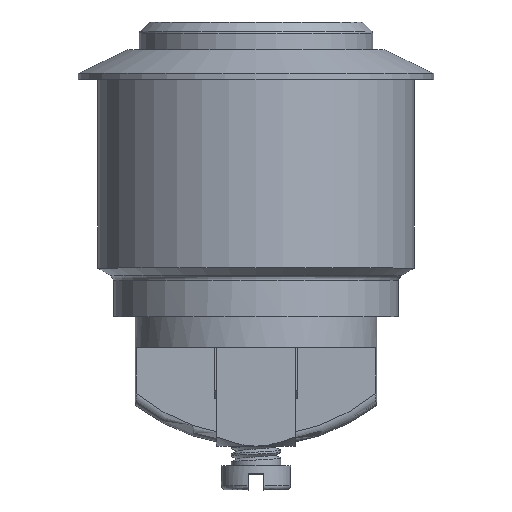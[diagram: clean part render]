
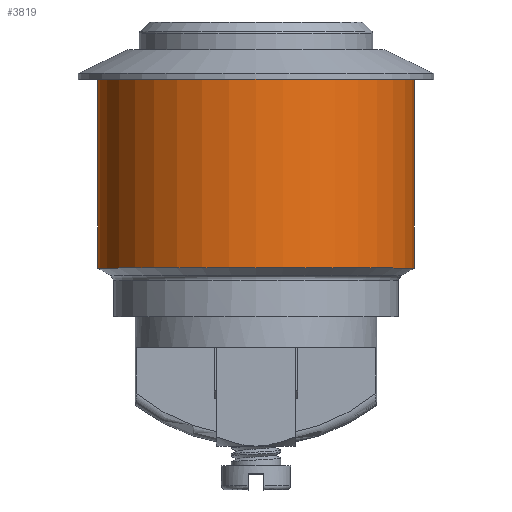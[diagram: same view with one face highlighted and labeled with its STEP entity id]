
A CAD part, top view. The second image highlights one B-rep face of the part: STEP entity #3819.
In plain terms, the highlighted cylindrical face has radius 8 mm (diameter 16 mm), a partial arc.
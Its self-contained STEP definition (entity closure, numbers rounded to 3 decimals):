
#1154=CARTESIAN_POINT('',(0.,4.012,0.));
#1155=DIRECTION('',(0.,1.,0.));
#1156=DIRECTION('',(-1.,0.,0.));
#1157=AXIS2_PLACEMENT_3D('',#1154,#1155,#1156);
#1206=DIRECTION('',(0.,-1.,0.));
#1207=VECTOR('',#1206,9.538);
#1208=CARTESIAN_POINT('',(-8.,13.55,0.));
#1209=LINE('',#1208,#1207);
#1210=DIRECTION('',(0.,-1.,0.));
#1211=VECTOR('',#1210,9.538);
#1212=CARTESIAN_POINT('',(8.,13.55,0.));
#1213=LINE('',#1212,#1211);
#1214=CARTESIAN_POINT('',(0.,13.55,0.));
#1215=DIRECTION('',(0.,1.,0.));
#1216=DIRECTION('',(-1.,0.,0.));
#1217=AXIS2_PLACEMENT_3D('',#1214,#1215,#1216);
#2195=CARTESIAN_POINT('',(-8.,4.012,0.));
#2196=VERTEX_POINT('',#2195);
#2197=CARTESIAN_POINT('',(8.,4.012,0.));
#2198=VERTEX_POINT('',#2197);
#2203=CARTESIAN_POINT('',(8.,13.55,0.));
#2204=VERTEX_POINT('',#2203);
#2205=CARTESIAN_POINT('',(-8.,13.55,0.));
#2206=VERTEX_POINT('',#2205);
#3807=CARTESIAN_POINT('',(0.,15.725,0.));
#3808=DIRECTION('',(0.,-1.,0.));
#3809=DIRECTION('',(-1.,0.,0.));
#3810=AXIS2_PLACEMENT_3D('',#3807,#3808,#3809);
#3811=CYLINDRICAL_SURFACE('',#3810,8.);
#3812=ORIENTED_EDGE('',*,*,#3797,.T.);
#3813=ORIENTED_EDGE('',*,*,#3740,.F.);
#3814=ORIENTED_EDGE('',*,*,#3801,.F.);
#3816=ORIENTED_EDGE('',*,*,#3815,.T.);
#3817=EDGE_LOOP('',(#3812,#3813,#3814,#3816));
#3818=FACE_OUTER_BOUND('',#3817,.F.);
#3819=ADVANCED_FACE('',(#3818),#3811,.T.);
#1158=CIRCLE('',#1157,8.);
#1218=CIRCLE('',#1217,8.);
#3740=EDGE_CURVE('',#2196,#2198,#1158,.T.);
#3797=EDGE_CURVE('',#2204,#2198,#1213,.T.);
#3801=EDGE_CURVE('',#2206,#2196,#1209,.T.);
#3815=EDGE_CURVE('',#2206,#2204,#1218,.T.);
